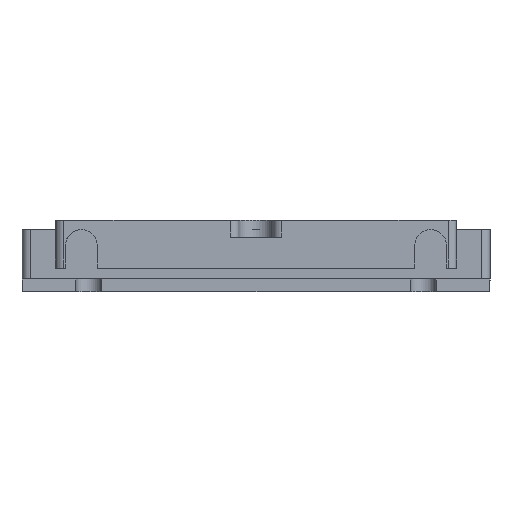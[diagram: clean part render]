
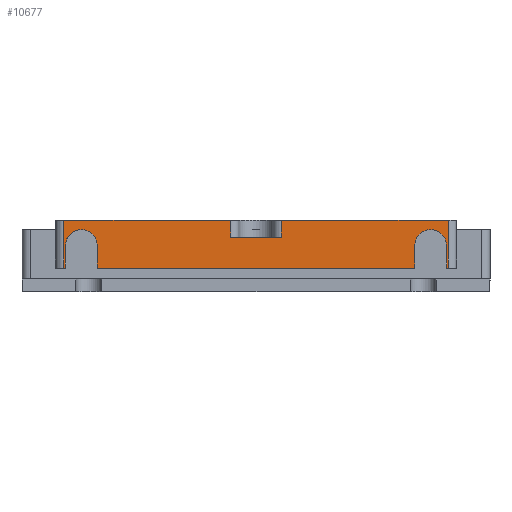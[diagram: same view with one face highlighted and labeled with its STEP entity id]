
A CAD part, left-side view. The second image highlights one B-rep face of the part: STEP entity #10677.
In plain terms, the highlighted planar face has unit normal (-1, 0, 0).
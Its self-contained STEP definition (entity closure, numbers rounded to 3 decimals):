
#7772=CARTESIAN_POINT('',(-28.,23.,0.));
#7773=VERTEX_POINT('',#7772);
#7781=CARTESIAN_POINT('',(-28.,3.05,0.0));
#7782=VERTEX_POINT('',#7781);
#7783=CARTESIAN_POINT('',(-28.,3.05,0.0));
#7784=DIRECTION('',(0.0,1.0,0.0));
#7785=VECTOR('',#7784,1.);
#7786=LINE('',#7783,#7785);
#7787=EDGE_CURVE('',#7782,#7773,#7786,.T.);
#7823=CARTESIAN_POINT('',(-28.0,-3.05,0.));
#7824=VERTEX_POINT('',#7823);
#7832=CARTESIAN_POINT('',(-28.,-23.,0.));
#7833=VERTEX_POINT('',#7832);
#7834=CARTESIAN_POINT('',(-28.0,-3.05,0.));
#7835=DIRECTION('',(0.0,-1.0,0.0));
#7836=VECTOR('',#7835,1.);
#7837=LINE('',#7834,#7836);
#7838=EDGE_CURVE('',#7824,#7833,#7837,.T.);
#9778=CARTESIAN_POINT('',(-28.,19.,-5.7));
#9779=VERTEX_POINT('',#9778);
#9882=CARTESIAN_POINT('',(-28.,-19.,-5.7));
#9883=VERTEX_POINT('',#9882);
#9890=CARTESIAN_POINT('',(-28.,-19.,-5.7));
#9891=DIRECTION('',(0.0,1.0,0.0));
#9892=VECTOR('',#9891,1.0);
#9893=LINE('',#9890,#9892);
#9894=EDGE_CURVE('',#9883,#9779,#9893,.T.);
#10030=CARTESIAN_POINT('',(-28.,-23.,-5.7));
#10031=VERTEX_POINT('',#10030);
#10039=CARTESIAN_POINT('',(-28.,-22.8,-5.7));
#10040=VERTEX_POINT('',#10039);
#10041=CARTESIAN_POINT('',(-28.,-22.8,-5.7));
#10042=DIRECTION('',(0.0,-1.0,0.0));
#10043=VECTOR('',#10042,1.0);
#10044=LINE('',#10041,#10043);
#10045=EDGE_CURVE('',#10040,#10031,#10044,.T.);
#10253=CARTESIAN_POINT('',(-28.,22.8,-5.7));
#10254=VERTEX_POINT('',#10253);
#10261=CARTESIAN_POINT('',(-28.,23.,-5.7));
#10262=VERTEX_POINT('',#10261);
#10263=CARTESIAN_POINT('',(-28.,22.8,-5.7));
#10264=DIRECTION('',(0.0,1.0,0.0));
#10265=VECTOR('',#10264,1.0);
#10266=LINE('',#10263,#10265);
#10267=EDGE_CURVE('',#10254,#10262,#10266,.T.);
#10585=CARTESIAN_POINT('',(-28.,-25.3,0.285));
#10586=DIRECTION('',(-1.0,0.0,0.0));
#10587=DIRECTION('',(0.0,1.0,0.0));
#10588=AXIS2_PLACEMENT_3D('',#10585,#10586,#10587);
#10589=PLANE('',#10588);
#10590=ORIENTED_EDGE('',*,*,#10267,.F.);
#10591=CARTESIAN_POINT('',(-28.,22.8,-3.));
#10592=VERTEX_POINT('',#10591);
#10593=CARTESIAN_POINT('',(-28.,22.8,-5.7));
#10594=DIRECTION('',(0.0,0.0,1.0));
#10595=VECTOR('',#10594,1.0);
#10596=LINE('',#10593,#10595);
#10597=EDGE_CURVE('',#10254,#10592,#10596,.T.);
#10598=ORIENTED_EDGE('',*,*,#10597,.T.);
#10599=CARTESIAN_POINT('',(-28.,19.,-3.));
#10600=VERTEX_POINT('',#10599);
#10601=CARTESIAN_POINT('',(-28.,20.9,-3.));
#10602=DIRECTION('',(1.0,0.,0.));
#10603=DIRECTION('',(0.0,1.0,0.));
#10604=AXIS2_PLACEMENT_3D('',#10601,#10602,#10603);
#10605=CIRCLE('',#10604,1.9);
#10606=EDGE_CURVE('',#10592,#10600,#10605,.T.);
#10607=ORIENTED_EDGE('',*,*,#10606,.T.);
#10608=CARTESIAN_POINT('',(-28.,19.,-5.7));
#10609=DIRECTION('',(0.0,0.0,1.0));
#10610=VECTOR('',#10609,1.0);
#10611=LINE('',#10608,#10610);
#10612=EDGE_CURVE('',#9779,#10600,#10611,.T.);
#10613=ORIENTED_EDGE('',*,*,#10612,.F.);
#10614=ORIENTED_EDGE('',*,*,#9894,.F.);
#10615=CARTESIAN_POINT('',(-28.,-19.,-3.));
#10616=VERTEX_POINT('',#10615);
#10617=CARTESIAN_POINT('',(-28.,-19.,-5.7));
#10618=DIRECTION('',(0.0,0.0,1.0));
#10619=VECTOR('',#10618,1.0);
#10620=LINE('',#10617,#10619);
#10621=EDGE_CURVE('',#9883,#10616,#10620,.T.);
#10622=ORIENTED_EDGE('',*,*,#10621,.T.);
#10623=CARTESIAN_POINT('',(-28.,-22.8,-3.));
#10624=VERTEX_POINT('',#10623);
#10625=CARTESIAN_POINT('',(-28.,-20.9,-3.));
#10626=DIRECTION('',(-1.0,0.0,0.0));
#10627=DIRECTION('',(0.0,-1.0,0.));
#10628=AXIS2_PLACEMENT_3D('',#10625,#10626,#10627);
#10629=CIRCLE('',#10628,1.9);
#10630=EDGE_CURVE('',#10624,#10616,#10629,.T.);
#10631=ORIENTED_EDGE('',*,*,#10630,.F.);
#10632=CARTESIAN_POINT('',(-28.,-22.8,-5.7));
#10633=DIRECTION('',(0.0,0.0,1.0));
#10634=VECTOR('',#10633,1.0);
#10635=LINE('',#10632,#10634);
#10636=EDGE_CURVE('',#10040,#10624,#10635,.T.);
#10637=ORIENTED_EDGE('',*,*,#10636,.F.);
#10638=ORIENTED_EDGE('',*,*,#10045,.T.);
#10639=CARTESIAN_POINT('',(-28.,-23.,0.));
#10640=DIRECTION('',(0.0,0.0,-1.0));
#10641=VECTOR('',#10640,1.0);
#10642=LINE('',#10639,#10641);
#10643=EDGE_CURVE('',#7833,#10031,#10642,.T.);
#10644=ORIENTED_EDGE('',*,*,#10643,.F.);
#10645=ORIENTED_EDGE('',*,*,#7838,.F.);
#10646=CARTESIAN_POINT('',(-28.0,-3.05,-2.));
#10647=VERTEX_POINT('',#10646);
#10648=CARTESIAN_POINT('',(-28.0,-3.05,-2.));
#10649=DIRECTION('',(0.0,0.0,1.0));
#10650=VECTOR('',#10649,1.);
#10651=LINE('',#10648,#10650);
#10652=EDGE_CURVE('',#10647,#7824,#10651,.T.);
#10653=ORIENTED_EDGE('',*,*,#10652,.F.);
#10654=CARTESIAN_POINT('',(-28.,3.05,-2.));
#10655=VERTEX_POINT('',#10654);
#10656=CARTESIAN_POINT('',(-28.0,-3.05,-2.));
#10657=DIRECTION('',(0.0,1.0,0.0));
#10658=VECTOR('',#10657,1.0);
#10659=LINE('',#10656,#10658);
#10660=EDGE_CURVE('',#10647,#10655,#10659,.T.);
#10661=ORIENTED_EDGE('',*,*,#10660,.T.);
#10662=CARTESIAN_POINT('',(-28.,3.05,-2.));
#10663=DIRECTION('',(0.0,0.0,1.0));
#10664=VECTOR('',#10663,1.);
#10665=LINE('',#10662,#10664);
#10666=EDGE_CURVE('',#10655,#7782,#10665,.T.);
#10667=ORIENTED_EDGE('',*,*,#10666,.T.);
#10668=ORIENTED_EDGE('',*,*,#7787,.T.);
#10669=CARTESIAN_POINT('',(-28.,23.,-5.7));
#10670=DIRECTION('',(0.0,0.0,1.0));
#10671=VECTOR('',#10670,1.0);
#10672=LINE('',#10669,#10671);
#10673=EDGE_CURVE('',#10262,#7773,#10672,.T.);
#10674=ORIENTED_EDGE('',*,*,#10673,.F.);
#10675=EDGE_LOOP('',(#10590,#10598,#10607,#10613,#10614,#10622,#10631,#10637,#10638,#10644,#10645,#10653,#10661,#10667,#10668,#10674));
#10676=FACE_OUTER_BOUND('',#10675,.T.);
#10677=ADVANCED_FACE('',(#10676),#10589,.T.);
